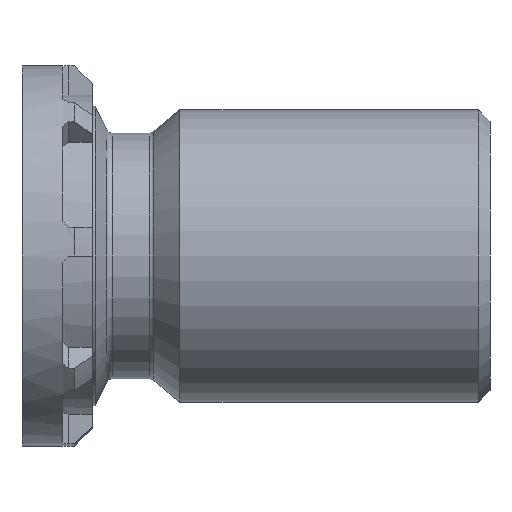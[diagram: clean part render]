
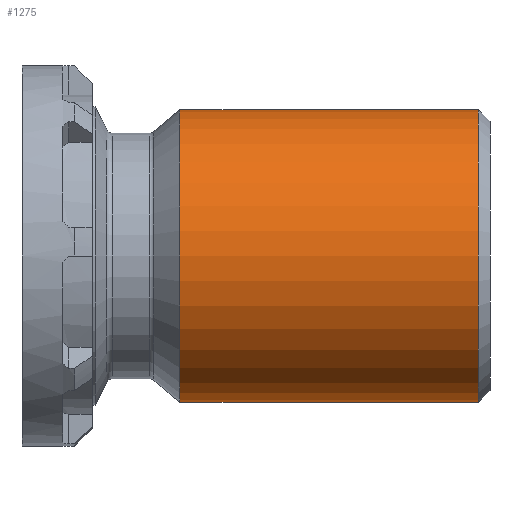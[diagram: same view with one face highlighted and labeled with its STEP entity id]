
A CAD part, left-side view. The second image highlights one B-rep face of the part: STEP entity #1275.
In plain terms, the highlighted cylindrical face has radius 2.5 mm (diameter 5 mm), a full revolution.
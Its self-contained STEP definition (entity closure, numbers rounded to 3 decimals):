
#38=CYLINDRICAL_SURFACE('',#1443,2.5);
#92=CIRCLE('',#1440,2.5);
#93=CIRCLE('',#1441,2.5);
#94=CIRCLE('',#1444,2.5);
#166=FACE_OUTER_BOUND('',#234,.T.);
#234=EDGE_LOOP('',(#1102,#1103,#1104,#1105,#1106));
#334=LINE('',#2248,#429);
#429=VECTOR('',#1831,2.5);
#581=VERTEX_POINT('',#2240);
#582=VERTEX_POINT('',#2242);
#583=VERTEX_POINT('',#2247);
#767=EDGE_CURVE('',#581,#582,#92,.T.);
#768=EDGE_CURVE('',#582,#581,#93,.T.);
#769=EDGE_CURVE('',#582,#583,#334,.T.);
#770=EDGE_CURVE('',#583,#583,#94,.T.);
#1102=ORIENTED_EDGE('',*,*,#767,.F.);
#1103=ORIENTED_EDGE('',*,*,#768,.F.);
#1104=ORIENTED_EDGE('',*,*,#769,.T.);
#1105=ORIENTED_EDGE('',*,*,#770,.T.);
#1106=ORIENTED_EDGE('',*,*,#769,.F.);
#1275=ADVANCED_FACE('',(#166),#38,.T.);
#1440=AXIS2_PLACEMENT_3D('',#2243,#1823,#1824);
#1441=AXIS2_PLACEMENT_3D('',#2244,#1825,#1826);
#1443=AXIS2_PLACEMENT_3D('',#2246,#1829,#1830);
#1444=AXIS2_PLACEMENT_3D('',#2249,#1832,#1833);
#1823=DIRECTION('center_axis',(0.,-1.,0.));
#1824=DIRECTION('ref_axis',(-1.,0.,0.));
#1825=DIRECTION('center_axis',(0.,-1.,0.));
#1826=DIRECTION('ref_axis',(-1.,0.,0.));
#1829=DIRECTION('center_axis',(0.,-1.,0.));
#1830=DIRECTION('ref_axis',(1.,0.,0.));
#1831=DIRECTION('',(0.,1.,0.));
#1832=DIRECTION('center_axis',(0.,-1.,0.));
#1833=DIRECTION('ref_axis',(1.,0.,0.));
#2240=CARTESIAN_POINT('',(2.5,0.2,0.));
#2242=CARTESIAN_POINT('',(-2.5,0.2,0.));
#2243=CARTESIAN_POINT('Origin',(0.,0.2,0.));
#2244=CARTESIAN_POINT('Origin',(0.,0.2,0.));
#2246=CARTESIAN_POINT('Origin',(0.,2.65,0.));
#2247=CARTESIAN_POINT('',(-2.5,5.3,0.));
#2248=CARTESIAN_POINT('',(-2.5,2.65,0.));
#2249=CARTESIAN_POINT('Origin',(0.,5.3,0.));
